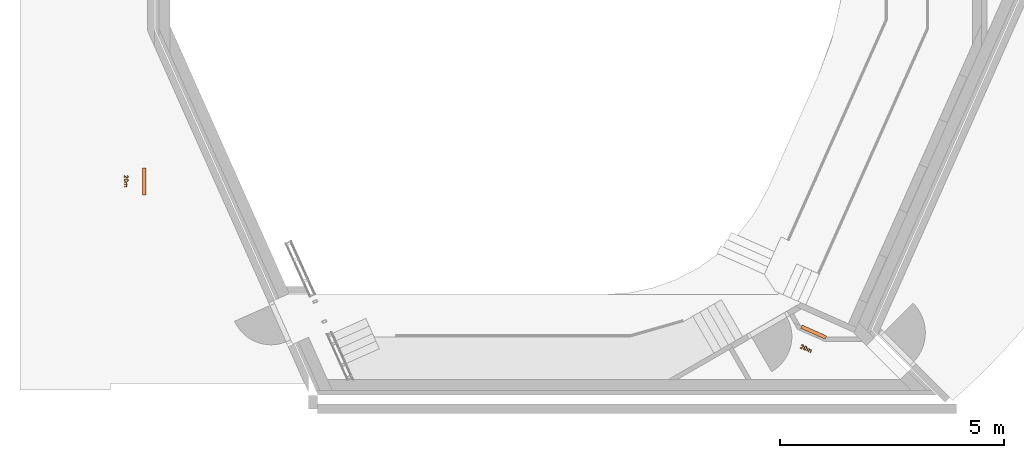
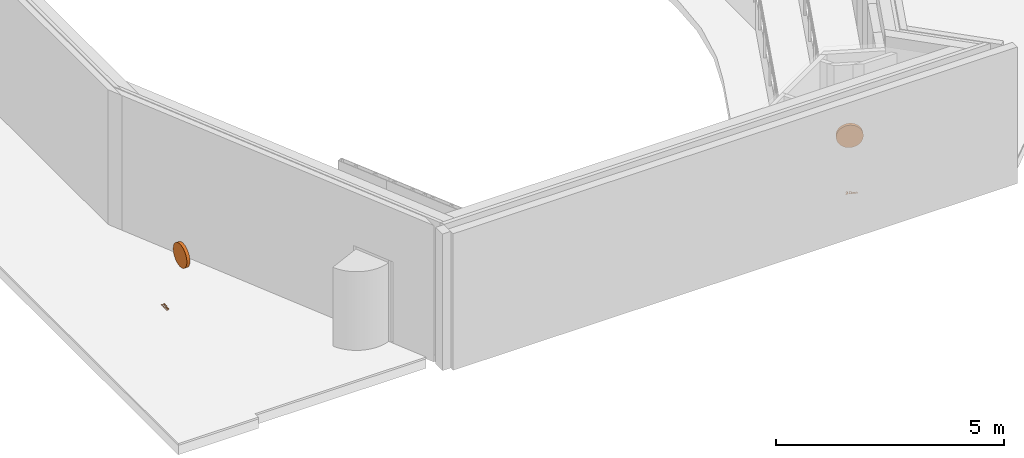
# One storey, part 14 of 16: 2 proxies.
"""IFC2X3 building model written with IfcOpenShell, lengths in millimetres."""

from ifc_helpers import new_model, entity, si_unit, converted_unit, derived_unit, direction, frame, origin, place, context, subcontext, project, spatial, face_set, surface_model, source, transform, mapped, material, type_object, type_shapes, element, save


model = new_model("IFC2X3")

# Units and contexts
model_context = context("Model", 3, precision=0.01, world=origin(), true_north=direction((6.123031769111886e-17, 1.0)))
body_context = subcontext(model_context, "Body", "Model", "MODEL_VIEW")
ifc_project = project(units=[si_unit("LENGTHUNIT", "METRE", prefix="MILLI"), si_unit("AREAUNIT", "SQUARE_METRE"), si_unit("VOLUMEUNIT", "CUBIC_METRE"), converted_unit("PLANEANGLEUNIT", "DEGREE", entity("IfcRatioMeasure", 0.017453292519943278), si_unit("PLANEANGLEUNIT", "RADIAN"), dimensions=[0, 0, 0, 0, 0, 0, 0]), si_unit("MASSUNIT", "GRAM", prefix="KILO"), derived_unit("MASSDENSITYUNIT", [(si_unit("MASSUNIT", "GRAM", prefix="KILO"), 1), (si_unit("LENGTHUNIT", "METRE"), -3)]), derived_unit("MOMENTOFINERTIAUNIT", [(si_unit("LENGTHUNIT", "METRE"), 4)]), si_unit("TIMEUNIT", "SECOND"), si_unit("FREQUENCYUNIT", "HERTZ"), si_unit("THERMODYNAMICTEMPERATUREUNIT", "DEGREE_CELSIUS"), derived_unit("THERMALTRANSMITTANCEUNIT", [(si_unit("MASSUNIT", "GRAM", prefix="KILO"), 1), (si_unit("THERMODYNAMICTEMPERATUREUNIT", "KELVIN"), -1), (si_unit("TIMEUNIT", "SECOND"), -3)]), derived_unit("VOLUMETRICFLOWRATEUNIT", [(si_unit("LENGTHUNIT", "METRE"), 3), (si_unit("TIMEUNIT", "SECOND"), -1)]), derived_unit("MASSFLOWRATEUNIT", [(si_unit("MASSUNIT", "GRAM", prefix="KILO"), 1), (si_unit("TIMEUNIT", "SECOND"), -1)]), derived_unit("ROTATIONALFREQUENCYUNIT", [(si_unit("TIMEUNIT", "SECOND"), -1)]), si_unit("ELECTRICCURRENTUNIT", "AMPERE"), si_unit("ELECTRICVOLTAGEUNIT", "VOLT"), si_unit("POWERUNIT", "WATT"), si_unit("FORCEUNIT", "NEWTON", prefix="KILO"), si_unit("ILLUMINANCEUNIT", "LUX"), si_unit("LUMINOUSFLUXUNIT", "LUMEN"), si_unit("LUMINOUSINTENSITYUNIT", "CANDELA"), derived_unit("USERDEFINED", [(si_unit("MASSUNIT", "GRAM", prefix="KILO"), -1), (si_unit("LENGTHUNIT", "METRE"), -2), (si_unit("TIMEUNIT", "SECOND"), 3), (si_unit("LUMINOUSFLUXUNIT", "LUMEN"), 1)]), derived_unit("SOUNDPOWERUNIT", [(si_unit("MASSUNIT", "GRAM", prefix="KILO"), 1), (si_unit("LENGTHUNIT", "METRE"), 2), (si_unit("TIMEUNIT", "SECOND"), -3)]), derived_unit("SOUNDPRESSUREUNIT", [(si_unit("MASSUNIT", "GRAM", prefix="KILO"), 1), (si_unit("LENGTHUNIT", "METRE"), -1), (si_unit("TIMEUNIT", "SECOND"), -2)]), derived_unit("LINEARVELOCITYUNIT", [(si_unit("LENGTHUNIT", "METRE"), 1), (si_unit("TIMEUNIT", "SECOND"), -1)]), si_unit("PRESSUREUNIT", "PASCAL"), derived_unit("USERDEFINED", [(si_unit("LENGTHUNIT", "METRE"), -2), (si_unit("MASSUNIT", "GRAM", prefix="KILO"), 1), (si_unit("TIMEUNIT", "SECOND"), -2)]), derived_unit("LINEARFORCEUNIT", [(si_unit("MASSUNIT", "GRAM", prefix="KILO"), 1), (si_unit("LENGTHUNIT", "METRE"), 1), (si_unit("TIMEUNIT", "SECOND"), -2), (si_unit("LENGTHUNIT", "METRE"), -1)]), derived_unit("PLANARFORCEUNIT", [(si_unit("MASSUNIT", "GRAM", prefix="KILO"), 1), (si_unit("LENGTHUNIT", "METRE"), 1), (si_unit("TIMEUNIT", "SECOND"), -2), (si_unit("LENGTHUNIT", "METRE"), -2)])], contexts=[model_context])

# Site, building, storey
site_placement = place(None, frame((-10000.0, -10000.0, 0.0)))
site = spatial("IfcSite", under=ifc_project, at=site_placement, Name="Default", CompositionType="ELEMENT")
building_placement = place(site_placement, origin())
building = spatial("IfcBuilding", under=site, at=building_placement, CompositionType="ELEMENT")
storey_placement = place(building_placement, frame((0.0, 0.0, 9000.0)))
storey = spatial("IfcBuildingStorey", under=building, at=storey_placement, Name="02 2e verdieping", CompositionType="ELEMENT", Elevation=9000.0)

# Proxy
ifc_material = material(Name="<Unnamed>")
building_element_proxy_type = type_object("IfcBuildingElementProxyType", Name="NLRS_53_GM_brandslanghaspel opbouw_ags:20 meter", PredefinedType="NOTDEFINED", material=ifc_material)
shared_shape = source(origin(), body_context, "Body", "SurfaceModel", [
    surface_model("IfcFaceBasedSurfaceModel", [(229.7810715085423, 21.05297174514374, 0.0), (193.57097226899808, 21.05297174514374, 0.0), (197.21475584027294, 26.366822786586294, 0.0), (208.31058289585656, 37.42469376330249, 0.0), (220.3932680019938, 50.17793626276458, 0.0), (227.5290108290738, 62.956482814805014, 0.0), (229.7810715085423, 75.81094152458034, 0.0), (227.7251172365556, 86.70749916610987, 0.0), (221.55725442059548, 95.661970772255, 0.0), (211.78989012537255, 101.64954221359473, 0.0), (198.9354314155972, 103.64539936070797, 0.0), (186.897028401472, 101.86462666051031, 0.0), (177.04742593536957, 96.52230855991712, 0.0), (170.06350742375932, 87.08705995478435, 0.0), (166.62215627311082, 73.02749574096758, 0.0), (186.0556686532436, 71.25621206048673, 0.0), (189.8006684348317, 82.45325532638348, 0.0), (198.50526252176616, 85.8313463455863, 0.0), (207.19720458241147, 82.40264722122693, 0.0), (210.34755912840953, 72.57202279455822, 0.0), (206.60255934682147, 60.88155050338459, 0.0), (191.57195211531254, 44.58574064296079, 0.0), (171.20218978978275, 20.68606298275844, 0.0), (165.00269690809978, 1.6194593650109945, 0.0), (229.7810715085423, 1.6194593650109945, 0.0), (275.1259337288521, 103.64539936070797, 0.0), (262.2271929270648, 101.05173397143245, 0.0), (252.5294147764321, 93.2707378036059, 0.0), (245.18491351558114, 76.65230127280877, 0.0), (242.73674642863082, 51.99982804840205, 0.0), (244.96666606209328, 27.233486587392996, 0.0), (251.65642496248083, 11.386823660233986, 0.0), (261.98364142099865, 2.8467059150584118, 0.0), (275.1259337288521, 0.0, 0.0), (288.0246745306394, 2.5936653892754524, 0.0), (297.72245268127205, 10.374661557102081, 0.0), (305.066953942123, 27.031054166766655, 0.0), (307.5151210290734, 51.79739562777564, 0.0), (305.0796059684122, 76.5637370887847, 0.0), (297.7730607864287, 93.1189134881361, 0.0), (288.0373265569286, 101.013777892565, 0.0), (275.1259337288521, 85.8313463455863, 0.0), (281.5658151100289, 83.69315390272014, 0.0), (286.23441281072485, 75.17834021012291, 0.0), (288.0816086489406, 51.79739562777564, 0.0), (286.00667633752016, 27.632025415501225, 0.0), (281.60377118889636, 19.952245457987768, 0.0), (275.1259337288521, 17.814053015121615, 0.0), (268.6860523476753, 19.926941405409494, 0.0), (264.01745464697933, 28.403799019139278, 0.0), (262.1702588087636, 51.79739562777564, 0.0), (264.245191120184, 76.01337394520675, 0.0), (268.6480962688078, 83.69315390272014, 0.0), (322.0902553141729, 76.11459015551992, 0.0), (322.0902553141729, 1.6194593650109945, 0.0), (341.5237676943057, 1.6194593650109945, 0.0), (341.5237676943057, 38.0825991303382, 0.0), (343.04201084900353, 53.556027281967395, 0.0), (348.0522132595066, 60.69177010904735, 0.0), (355.92177361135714, 63.15891523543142, 0.0), (361.67844557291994, 61.602716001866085, 0.0), (364.80349606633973, 56.870858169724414, 0.0), (365.81565816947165, 42.73854480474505, 0.0), (365.81565816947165, 1.6194593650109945, 0.0), (385.2491705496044, 1.6194593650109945, 0.0), (385.2491705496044, 37.65243023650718, 0.0), (386.80536978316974, 53.163814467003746, 0.0), (391.8914843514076, 60.61585795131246, 0.0), (399.4194399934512, 63.15891523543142, 0.0), (407.56734492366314, 58.907834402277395, 0.0), (409.5410610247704, 44.509828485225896, 0.0), (409.5410610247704, 1.6194593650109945, 0.0), (428.97457340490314, 1.6194593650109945, 0.0), (428.97457340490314, 49.216382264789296, 0.0), (427.0008573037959, 64.6265502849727, 0.0), (418.70112805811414, 74.40656660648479, 0.0), (405.1634599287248, 77.73404952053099, 0.0), (393.30851129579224, 74.88734360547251, 0.0), (382.97180581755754, 66.27131370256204, 0.0), (374.88716101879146, 74.88734360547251, 0.0), (363.25994885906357, 77.73404952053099, 0.0), (351.525194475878, 74.83673550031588, 0.0), (341.5237676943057, 66.1447934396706, 0.0), (341.5237676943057, 76.11459015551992, 0.0), (1.5952722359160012, 414.42866249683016, 1250.0), (7.359688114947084, 414.42866249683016, 1308.5270966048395), (24.431412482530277, 414.42866249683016, 1364.8050297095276), (52.15438854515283, 414.42866249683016, 1416.6710699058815), (89.46323787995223, 414.42866249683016, 1462.1320343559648), (134.92420233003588, 414.42866249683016, 1499.440883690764), (186.79024252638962, 414.42866249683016, 1527.1638597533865), (243.0681756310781, 414.42866249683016, 1544.2355841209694), (301.5952722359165, 414.42866249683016, 1550.0), (360.1223688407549, 414.42866249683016, 1544.2355841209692), (416.4003019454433, 414.42866249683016, 1527.1638597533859), (468.26634214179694, 414.42866249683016, 1499.4408836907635), (513.7273065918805, 414.42866249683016, 1462.1320343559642), (551.0361559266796, 414.42866249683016, 1416.6710699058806), (578.7591319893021, 414.42866249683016, 1364.805029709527), (595.8308563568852, 414.42866249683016, 1308.5270966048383), (601.5952722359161, 414.42866249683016, 1250.0), (595.8308563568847, 414.42866249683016, 1191.4729033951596), (578.7591319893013, 414.42866249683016, 1135.1949702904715), (551.0361559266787, 414.42866249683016, 1083.328930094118), (513.7273065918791, 414.42866249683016, 1037.8679656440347), (468.26634214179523, 414.42866249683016, 1000.5591163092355), (416.4003019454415, 414.42866249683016, 972.8361402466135), (360.1223688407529, 414.42866249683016, 955.7644158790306), (301.59527223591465, 414.42866249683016, 950.0), (243.06817563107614, 414.42866249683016, 955.7644158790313), (186.79024252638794, 414.42866249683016, 972.8361402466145), (134.92420233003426, 414.42866249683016, 1000.5591163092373), (89.46323787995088, 414.42866249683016, 1037.8679656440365), (52.15438854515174, 414.42866249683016, 1083.3289300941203), (24.43141248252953, 414.42866249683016, 1135.1949702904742), (7.359688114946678, 414.42866249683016, 1191.4729033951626), (1.5952722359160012, 494.42866249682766, 1250.0), (7.359688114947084, 494.42866249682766, 1308.5270966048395), (24.431412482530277, 494.42866249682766, 1364.8050297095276), (52.15438854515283, 494.42866249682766, 1416.6710699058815), (89.46323787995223, 494.42866249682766, 1462.1320343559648), (134.92420233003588, 494.42866249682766, 1499.440883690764), (186.79024252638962, 494.42866249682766, 1527.1638597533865), (243.0681756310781, 494.42866249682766, 1544.2355841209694), (301.5952722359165, 494.42866249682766, 1550.0), (360.1223688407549, 494.42866249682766, 1544.2355841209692), (416.4003019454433, 494.42866249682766, 1527.1638597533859), (468.26634214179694, 494.42866249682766, 1499.4408836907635), (513.7273065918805, 494.42866249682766, 1462.1320343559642), (551.0361559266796, 494.42866249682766, 1416.6710699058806), (578.7591319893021, 494.42866249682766, 1364.805029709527), (595.8308563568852, 494.42866249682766, 1308.5270966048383), (601.5952722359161, 494.42866249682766, 1250.0), (595.8308563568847, 494.42866249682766, 1191.4729033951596), (578.7591319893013, 494.42866249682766, 1135.1949702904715), (551.0361559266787, 494.42866249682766, 1083.328930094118), (513.7273065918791, 494.42866249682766, 1037.8679656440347), (468.26634214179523, 494.42866249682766, 1000.5591163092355), (416.4003019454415, 494.42866249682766, 972.8361402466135), (360.1223688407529, 494.42866249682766, 955.7644158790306), (301.59527223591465, 494.42866249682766, 950.0), (243.06817563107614, 494.42866249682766, 955.7644158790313), (186.79024252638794, 494.42866249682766, 972.8361402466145), (134.92420233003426, 494.42866249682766, 1000.5591163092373), (89.46323787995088, 494.42866249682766, 1037.8679656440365), (52.15438854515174, 494.42866249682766, 1083.3289300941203), (24.43141248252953, 494.42866249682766, 1135.1949702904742), (7.359688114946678, 494.42866249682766, 1191.4729033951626)], [face_set([[[0, 1, 2, 3, 4, 5, 6, 7, 8, 9, 10, 11, 12, 13, 14, 15, 16, 17, 18, 19, 20, 21, 22, 23, 24]], [[25, 26, 27, 28, 29, 30, 31, 32, 33, 34, 35, 36, 37, 38, 39, 40], [41, 42, 43, 44, 45, 46, 47, 48, 49, 50, 51, 52]], [[53, 54, 55, 56, 57, 58, 59, 60, 61, 62, 63, 64, 65, 66, 67, 68, 69, 70, 71, 72, 73, 74, 75, 76, 77, 78, 79, 80, 81, 82, 83]]]), face_set([[[84, 85, 86, 87, 88, 89, 90, 91, 92, 93, 94, 95, 96, 97, 98, 99, 100, 101, 102, 103, 104, 105, 106, 107, 108, 109, 110, 111, 112, 113, 114, 115]], [[116, 117, 118, 119, 120, 121, 122, 123, 124, 125, 126, 127, 128, 129, 130, 131, 132, 133, 134, 135, 136, 137, 138, 139, 140, 141, 142, 143, 144, 145, 146, 147]], [[116, 147, 115, 84]], [[147, 146, 114, 115]], [[146, 145, 113, 114]], [[144, 143, 111, 112]], [[143, 142, 110, 111]], [[145, 144, 112, 113]], [[142, 141, 109, 110]], [[140, 108, 109, 141]], [[106, 138, 137, 105]], [[107, 139, 138, 106]], [[105, 137, 136, 104]], [[102, 134, 133, 101]], [[103, 135, 134, 102]], [[104, 136, 135, 103]], [[101, 133, 132, 100]], [[107, 108, 140, 139]], [[132, 131, 99, 100]], [[131, 130, 98, 99]], [[130, 129, 97, 98]], [[128, 127, 95, 96]], [[127, 126, 94, 95]], [[129, 128, 96, 97]], [[126, 125, 93, 94]], [[124, 92, 93, 125]], [[90, 122, 121, 89]], [[91, 123, 122, 90]], [[89, 121, 120, 88]], [[86, 118, 117, 85]], [[87, 119, 118, 86]], [[88, 120, 119, 87]], [[85, 117, 116, 84]], [[91, 92, 124, 123]]])]),
])
type_shapes(building_element_proxy_type, [shared_shape])
proxy_1_placement = place(storey_placement, frame((24740.78331286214, 32847.834602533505, 0.0), z_axis=(0.0, 0.0, 1.0), x_axis=(0.0, -1.0, 0.0)))
element("IfcBuildingElementProxy", 1, at=proxy_1_placement, inside=storey, type_object=building_element_proxy_type, material=ifc_material, Name="NLRS_53_GM_brandslanghaspel opbouw_ags:20 meter", ObjectType="NLRS_53_GM_brandslanghaspel opbouw_ags:20 meter", context=body_context, shape_type="MappedRepresentation", body=[
    mapped(shared_shape, transform((0.0, 0.0, 0.0), scale=1.0)),
])

# Space
space_placement = place(storey_placement, origin())
space = spatial("IfcSpace", under=storey, at=space_placement, Name="2.3", CompositionType="ELEMENT", InteriorOrExteriorSpace="INTERNAL")

# Proxy
proxy_2_placement = place(space_placement, frame((39675.427274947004, 28891.18991111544, 0.0), z_axis=(0.0, 0.0, 1.0), x_axis=(0.9135931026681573, -0.40662961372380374, 0.0)))
element("IfcBuildingElementProxy", 2, at=proxy_2_placement, inside=space, type_object=building_element_proxy_type, material=ifc_material, Name="NLRS_53_GM_brandslanghaspel opbouw_ags:20 meter", ObjectType="NLRS_53_GM_brandslanghaspel opbouw_ags:20 meter", context=body_context, shape_type="MappedRepresentation", body=[
    mapped(shared_shape, transform((0.0, 0.0, 0.0), scale=1.0)),
])

save(model, "model.ifc")
